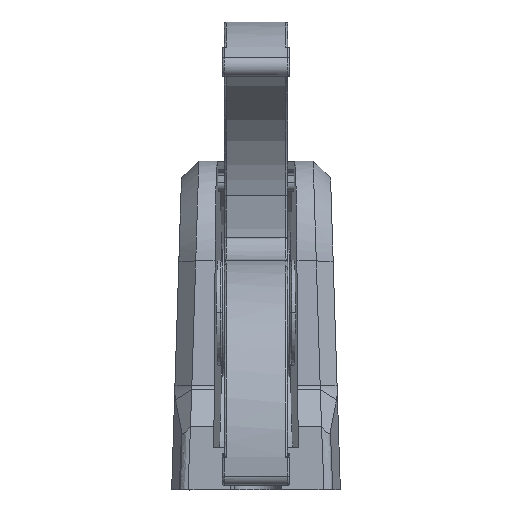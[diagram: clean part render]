
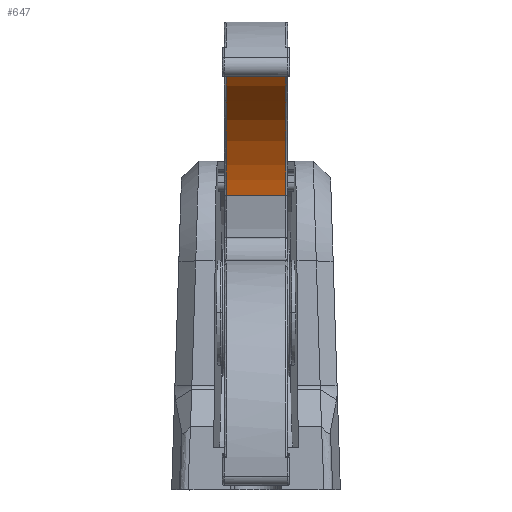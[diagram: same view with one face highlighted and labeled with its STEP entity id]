
A CAD part, left-side view. The second image highlights one B-rep face of the part: STEP entity #647.
In plain terms, the highlighted free-form (B-spline) face has degree [2, 1] with [5, 2] control points.
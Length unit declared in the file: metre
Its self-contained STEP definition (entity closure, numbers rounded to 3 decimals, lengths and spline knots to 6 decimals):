
#647 = ADVANCED_FACE( '', ( #1698 ), #1699, .F. );
#1698 = FACE_OUTER_BOUND( '', #3800, .T. );
#1699 = ( BOUNDED_SURFACE(  )B_SPLINE_SURFACE( 2, 1, ( ( #3803, #3804 ), ( #3805, #3806 ), ( #3807, #3808 ), ( #3809, #3810 ), ( #3811, #3812 ) ), .UNSPECIFIED., .F., .F., .F. )B_SPLINE_SURFACE_WITH_KNOTS( ( 3, 2, 3 ), ( 2, 2 ), ( 0., 0.25, 0.258329 ), ( 0., 1. ), .UNSPECIFIED. )GEOMETRIC_REPRESENTATION_ITEM(  )RATIONAL_B_SPLINE_SURFACE( ( ( 1., 1. ), ( 0.707, 0.707 ), ( 1., 1. ), ( 0.99, 0.99 ), ( 0.981, 0.981 ) ) )REPRESENTATION_ITEM( '' )SURFACE(  ) );
#3800 = EDGE_LOOP( '', ( #14407, #14408, #14409, #14410, #14411, #14412, #14413, #14414, #14415, #14416 ) );
#3803 = CARTESIAN_POINT( '', ( -0.051639, -0.00765, 0.098119 ) );
#3804 = CARTESIAN_POINT( '', ( -0.051639, 0.00765, 0.098119 ) );
#3805 = CARTESIAN_POINT( '', ( -0.013399, -0.00765, 0.109854 ) );
#3806 = CARTESIAN_POINT( '', ( -0.013399, 0.00765, 0.109854 ) );
#3807 = CARTESIAN_POINT( '', ( -0.001664, -0.00765, 0.071615 ) );
#3808 = CARTESIAN_POINT( '', ( -0.001664, 0.00765, 0.071615 ) );
#3809 = CARTESIAN_POINT( '', ( -0.001385, -0.00765, 0.070705 ) );
#3810 = CARTESIAN_POINT( '', ( -0.001385, 0.00765, 0.070705 ) );
#3811 = CARTESIAN_POINT( '', ( -0.001149, -0.00765, 0.069783 ) );
#3812 = CARTESIAN_POINT( '', ( -0.001149, 0.00765, 0.069783 ) );
#14407 = ORIENTED_EDGE( '', *, *, #17106, .F. );
#14408 = ORIENTED_EDGE( '', *, *, #17107, .T. );
#14409 = ORIENTED_EDGE( '', *, *, #17108, .F. );
#14410 = ORIENTED_EDGE( '', *, *, #17109, .F. );
#14411 = ORIENTED_EDGE( '', *, *, #17110, .F. );
#14412 = ORIENTED_EDGE( '', *, *, #16995, .F. );
#14413 = ORIENTED_EDGE( '', *, *, #17111, .F. );
#14414 = ORIENTED_EDGE( '', *, *, #17112, .F. );
#14415 = ORIENTED_EDGE( '', *, *, #17113, .F. );
#14416 = ORIENTED_EDGE( '', *, *, #17114, .F. );
#16995 = EDGE_CURVE( '', #18668, #18669, #18670, .T. );
#17106 = EDGE_CURVE( '', #18871, #18872, #18873, .F. );
#17107 = EDGE_CURVE( '', #18871, #18874, #18875, .F. );
#17108 = EDGE_CURVE( '', #18876, #18874, #18877, .T. );
#17109 = EDGE_CURVE( '', #18878, #18876, #18879, .T. );
#17110 = EDGE_CURVE( '', #18669, #18878, #18880, .T. );
#17111 = EDGE_CURVE( '', #18881, #18668, #18882, .T. );
#17112 = EDGE_CURVE( '', #18883, #18881, #18884, .F. );
#17113 = EDGE_CURVE( '', #18885, #18883, #18886, .F. );
#17114 = EDGE_CURVE( '', #18872, #18885, #18887, .F. );
#18668 = VERTEX_POINT( '', #21732 );
#18669 = VERTEX_POINT( '', #21733 );
#18670 = ( BOUNDED_CURVE(  )B_SPLINE_CURVE( 2, ( #21736, #21737, #21738 ), .UNSPECIFIED., .F., .F. )B_SPLINE_CURVE_WITH_KNOTS( ( 3, 3 ), ( 0., 0.958976 ), .UNSPECIFIED. )CURVE(  )GEOMETRIC_REPRESENTATION_ITEM(  )RATIONAL_B_SPLINE_CURVE( ( 1., 0.999, 1. ) )REPRESENTATION_ITEM( '' ) );
#18871 = VERTEX_POINT( '', #23465 );
#18872 = VERTEX_POINT( '', #23466 );
#18873 = ( BOUNDED_CURVE(  )B_SPLINE_CURVE( 2, ( #23469, #23470, #23471 ), .UNSPECIFIED., .F., .F. )B_SPLINE_CURVE_WITH_KNOTS( ( 3, 3 ), ( 0.002242, 1. ), .UNSPECIFIED. )CURVE(  )GEOMETRIC_REPRESENTATION_ITEM(  )RATIONAL_B_SPLINE_CURVE( ( 0.999, 0.728, 1. ) )REPRESENTATION_ITEM( '' ) );
#18874 = VERTEX_POINT( '', #23477 );
#18875 = ( BOUNDED_CURVE(  )B_SPLINE_CURVE( 1, ( #23480, #23481 ), .UNSPECIFIED., .F., .F. )B_SPLINE_CURVE_WITH_KNOTS( ( 2, 2 ), ( 0., 1. ), .UNSPECIFIED. )CURVE(  )GEOMETRIC_REPRESENTATION_ITEM(  )RATIONAL_B_SPLINE_CURVE( ( 0.981, 0.981 ) )REPRESENTATION_ITEM( '' ) );
#18876 = VERTEX_POINT( '', #23487 );
#18877 = ( BOUNDED_CURVE(  )B_SPLINE_CURVE( 2, ( #23490, #23491, #23492 ), .UNSPECIFIED., .F., .F. )B_SPLINE_CURVE_WITH_KNOTS( ( 3, 3 ), ( 0.002242, 1. ), .UNSPECIFIED. )CURVE(  )GEOMETRIC_REPRESENTATION_ITEM(  )RATIONAL_B_SPLINE_CURVE( ( 0.999, 0.728, 1. ) )REPRESENTATION_ITEM( '' ) );
#18878 = VERTEX_POINT( '', #23498 );
#18879 = B_SPLINE_CURVE_WITH_KNOTS( '', 3, ( #23499, #23500, #23501, #23502, #23503, #23504, #23505, #23506, #23507 ), .UNSPECIFIED., .F., .F., ( 4, 1, 1, 1, 1, 1, 4 ), ( 0., 0.189411, 0.381424, 0.573064, 0.762974, 0.883432, 1. ), .UNSPECIFIED. );
#18880 = B_SPLINE_CURVE_WITH_KNOTS( '', 1, ( #23508, #23509 ), .UNSPECIFIED., .F., .F., ( 2, 2 ), ( 0., 0.315744 ), .UNSPECIFIED. );
#18881 = VERTEX_POINT( '', #23510 );
#18882 = B_SPLINE_CURVE_WITH_KNOTS( '', 1, ( #23511, #23512 ), .UNSPECIFIED., .F., .F., ( 2, 2 ), ( 0., 1. ), .UNSPECIFIED. );
#18883 = VERTEX_POINT( '', #23513 );
#18884 = ( BOUNDED_CURVE(  )B_SPLINE_CURVE( 2, ( #23516, #23517, #23518 ), .UNSPECIFIED., .F., .F. )B_SPLINE_CURVE_WITH_KNOTS( ( 3, 3 ), ( 0., 0.958976 ), .UNSPECIFIED. )CURVE(  )GEOMETRIC_REPRESENTATION_ITEM(  )RATIONAL_B_SPLINE_CURVE( ( 1., 0.999, 1. ) )REPRESENTATION_ITEM( '' ) );
#18885 = VERTEX_POINT( '', #23524 );
#18886 = B_SPLINE_CURVE_WITH_KNOTS( '', 1, ( #23525, #23526 ), .UNSPECIFIED., .F., .F., ( 2, 2 ), ( 0., 0.315744 ), .UNSPECIFIED. );
#18887 = B_SPLINE_CURVE_WITH_KNOTS( '', 3, ( #23527, #23528, #23529, #23530, #23531, #23532, #23533, #23534, #23535 ), .UNSPECIFIED., .F., .F., ( 4, 1, 1, 1, 1, 1, 4 ), ( 0., 0.189411, 0.381424, 0.573064, 0.762974, 0.883432, 1. ), .UNSPECIFIED. );
#21732 = CARTESIAN_POINT( '', ( -0.051639, -0.00755, 0.098119 ) );
#21733 = CARTESIAN_POINT( '', ( -0.047564, -0.00755, 0.099139 ) );
#21736 = CARTESIAN_POINT( '', ( -0.051639, -0.00755, 0.098119 ) );
#21737 = CARTESIAN_POINT( '', ( -0.049628, -0.00755, 0.098736 ) );
#21738 = CARTESIAN_POINT( '', ( -0.047564, -0.00755, 0.099139 ) );
#23465 = CARTESIAN_POINT( '', ( -0.001149, 0.007, 0.069783 ) );
#23466 = CARTESIAN_POINT( '', ( -0.047443, 0.007, 0.099162 ) );
#23469 = CARTESIAN_POINT( '', ( -0.047443, 0.007, 0.099162 ) );
#23470 = CARTESIAN_POINT( '', ( -0.01047, 0.007, 0.106258 ) );
#23471 = CARTESIAN_POINT( '', ( -0.001149, 0.007, 0.069783 ) );
#23477 = CARTESIAN_POINT( '', ( -0.001149, -0.007, 0.069783 ) );
#23480 = CARTESIAN_POINT( '', ( -0.001149, -0.007, 0.069783 ) );
#23481 = CARTESIAN_POINT( '', ( -0.001149, 0.007, 0.069783 ) );
#23487 = CARTESIAN_POINT( '', ( -0.047443, -0.007, 0.099162 ) );
#23490 = CARTESIAN_POINT( '', ( -0.047443, -0.007, 0.099162 ) );
#23491 = CARTESIAN_POINT( '', ( -0.01047, -0.007, 0.106258 ) );
#23492 = CARTESIAN_POINT( '', ( -0.001149, -0.007, 0.069783 ) );
#23498 = CARTESIAN_POINT( '', ( -0.047564, -0.007376, 0.099139 ) );
#23499 = CARTESIAN_POINT( '', ( -0.047564, -0.007376, 0.099139 ) );
#23500 = CARTESIAN_POINT( '', ( -0.047563, -0.007351, 0.099139 ) );
#23501 = CARTESIAN_POINT( '', ( -0.047561, -0.0073, 0.099139 ) );
#23502 = CARTESIAN_POINT( '', ( -0.047545, -0.007225, 0.099142 ) );
#23503 = CARTESIAN_POINT( '', ( -0.047521, -0.007152, 0.099147 ) );
#23504 = CARTESIAN_POINT( '', ( -0.047494, -0.00709, 0.099152 ) );
#23505 = CARTESIAN_POINT( '', ( -0.047468, -0.00704, 0.099157 ) );
#23506 = CARTESIAN_POINT( '', ( -0.047451, -0.007013, 0.099161 ) );
#23507 = CARTESIAN_POINT( '', ( -0.047443, -0.007, 0.099162 ) );
#23508 = CARTESIAN_POINT( '', ( -0.047564, -0.00755, 0.099139 ) );
#23509 = CARTESIAN_POINT( '', ( -0.047564, -0.007376, 0.099139 ) );
#23510 = CARTESIAN_POINT( '', ( -0.051639, 0.00755, 0.098119 ) );
#23511 = CARTESIAN_POINT( '', ( -0.051639, 0.00755, 0.098119 ) );
#23512 = CARTESIAN_POINT( '', ( -0.051639, -0.00755, 0.098119 ) );
#23513 = CARTESIAN_POINT( '', ( -0.047564, 0.00755, 0.099139 ) );
#23516 = CARTESIAN_POINT( '', ( -0.051639, 0.00755, 0.098119 ) );
#23517 = CARTESIAN_POINT( '', ( -0.049628, 0.00755, 0.098736 ) );
#23518 = CARTESIAN_POINT( '', ( -0.047564, 0.00755, 0.099139 ) );
#23524 = CARTESIAN_POINT( '', ( -0.047564, 0.007376, 0.099139 ) );
#23525 = CARTESIAN_POINT( '', ( -0.047564, 0.00755, 0.099139 ) );
#23526 = CARTESIAN_POINT( '', ( -0.047564, 0.007376, 0.099139 ) );
#23527 = CARTESIAN_POINT( '', ( -0.047564, 0.007376, 0.099139 ) );
#23528 = CARTESIAN_POINT( '', ( -0.047563, 0.007351, 0.099139 ) );
#23529 = CARTESIAN_POINT( '', ( -0.047561, 0.0073, 0.099139 ) );
#23530 = CARTESIAN_POINT( '', ( -0.047545, 0.007225, 0.099142 ) );
#23531 = CARTESIAN_POINT( '', ( -0.047521, 0.007152, 0.099147 ) );
#23532 = CARTESIAN_POINT( '', ( -0.047494, 0.00709, 0.099152 ) );
#23533 = CARTESIAN_POINT( '', ( -0.047468, 0.00704, 0.099157 ) );
#23534 = CARTESIAN_POINT( '', ( -0.047451, 0.007013, 0.099161 ) );
#23535 = CARTESIAN_POINT( '', ( -0.047443, 0.007, 0.099162 ) );
